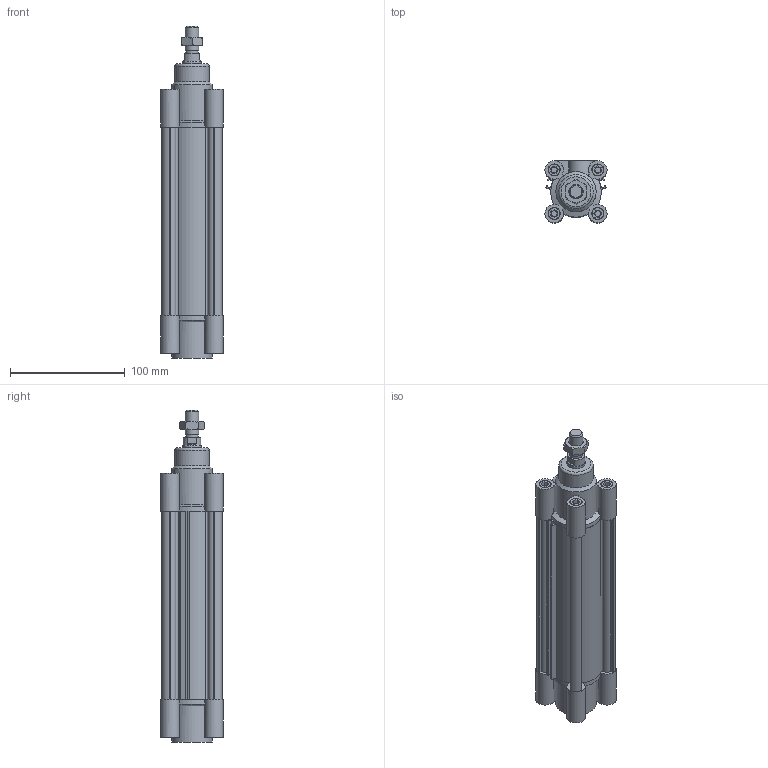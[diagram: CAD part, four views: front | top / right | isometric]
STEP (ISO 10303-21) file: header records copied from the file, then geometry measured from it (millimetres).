
FILE_DESCRIPTION((''),'2;1');
FILE_NAME('I:\Area Tecnica\Disegni\VARIE-3D\Componenti\ECOLIGHT\139#.##_0000_01\stp\139#_40_0125_01.iam.stp','2012-01-28T07:59:02',(''),(''),'Autodesk Inventor 2012','Autodesk Inventor 2012','');
FILE_SCHEMA(('AUTOMOTIVE_DESIGN { 1 0 10303 214 1 1 1 1 }'));
Length unit declared in the file: millimetre
Products named in the file (6): 139#_40_0125_01; CPL040_004-125; CPL040-001-01; CPL040-002-01; CPL_40_0125; 1320_40_18F
Assembly tree (5 placements, depth 2):
  139#_40_0125_01
    CPL040_004-125
    CPL040-001-01
    CPL040-002-01
    CPL_40_0125
    1320_40_18F
Bounding box: 54 x 54 x 289 mm (x, y, z)
Volume: 334961.8 mm3; surface area: 143276.7 mm2
Topology: 5 solids, 5 shells, 316 faces, 788 edges, 522 vertices
Faces by surface type: plane 200, cylinder 91, cone 24, torus 1
Full cylindrical faces by diameter (mm): 5 x8, 5.5 x4, 8 x2, 10 x8, 10.5 x9, 10.8 x1, 11.6 x2, 12 x1, 15.5 x1, 16 x2, 30 x1, 35 x2, 40 x4
Entity records: 9416 total; most frequent: CARTESIAN_POINT 1761, DIRECTION 1538, ORIENTED_EDGE 1442, EDGE_CURVE 721, AXIS2_PLACEMENT_3D 544, VERTEX_POINT 507, VECTOR 450, LINE 450
